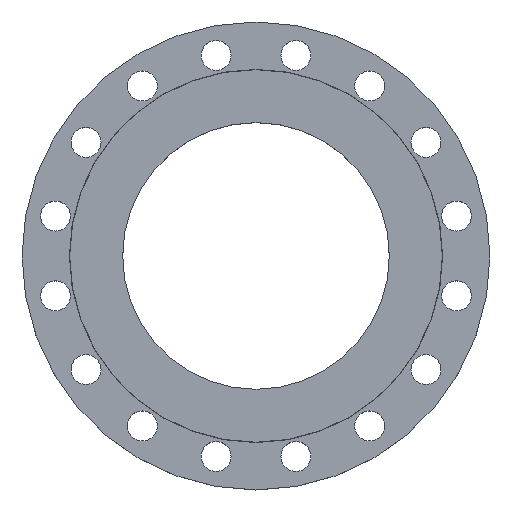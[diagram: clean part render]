
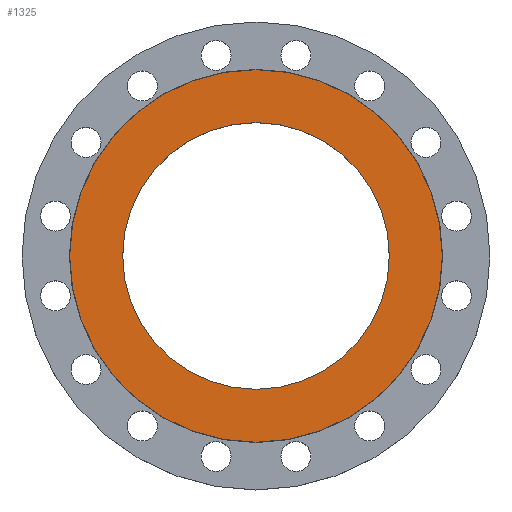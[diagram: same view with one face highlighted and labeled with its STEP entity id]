
A CAD part, top view. The second image highlights one B-rep face of the part: STEP entity #1325.
In plain terms, the highlighted planar face has unit normal (0, 0, 1).
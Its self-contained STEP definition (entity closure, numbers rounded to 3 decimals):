
#339 = AXIS2_PLACEMENT_3D ( 'NONE', #654, #653, #652 ) ;
#475 = ORIENTED_EDGE ( 'NONE', *, *, #1298, .F. ) ;
#481 = ORIENTED_EDGE ( 'NONE', *, *, #1092, .F. ) ;
#500 = EDGE_CURVE ( 'NONE', #705, #720, #589, .T. ) ;
#515 = ORIENTED_EDGE ( 'NONE', *, *, #1250, .F. ) ;
#567 = VERTEX_POINT ( 'NONE', #1503 ) ;
#575 = VERTEX_POINT ( 'NONE', #1491 ) ;
#589 = CIRCLE ( 'NONE', #1497, 146.752 ) ;
#602 = AXIS2_PLACEMENT_3D ( 'NONE', #1114, #1112, #1111 ) ;
#652 = DIRECTION ( 'NONE',  ( 1., 0., 0. ) ) ;
#653 = DIRECTION ( 'NONE',  ( 0., 0., 1. ) ) ;
#654 = CARTESIAN_POINT ( 'NONE',  ( 0., 0., 0. ) ) ;
#655 = PLANE ( 'NONE',  #339 ) ;
#657 = FACE_OUTER_BOUND ( 'NONE', #996, .T. ) ;
#658 = FACE_BOUND ( 'NONE', #956, .T. ) ;
#670 = CIRCLE ( 'NONE', #1580, 205. ) ;
#682 = DIRECTION ( 'NONE',  ( -1., 0., 0. ) ) ;
#684 = DIRECTION ( 'NONE',  ( 0., 0., -1. ) ) ;
#685 = CARTESIAN_POINT ( 'NONE',  ( 0., 0., 0. ) ) ;
#705 = VERTEX_POINT ( 'NONE', #1330 ) ;
#720 = VERTEX_POINT ( 'NONE', #1320 ) ;
#825 = DIRECTION ( 'NONE',  ( -1., 0., 0. ) ) ;
#826 = DIRECTION ( 'NONE',  ( 0., 0., -1. ) ) ;
#827 = CARTESIAN_POINT ( 'NONE',  ( 0., 0., 0. ) ) ;
#956 = EDGE_LOOP ( 'NONE', ( #481, #1591 ) ) ;
#992 = CIRCLE ( 'NONE', #1192, 205. ) ;
#996 = EDGE_LOOP ( 'NONE', ( #475, #515 ) ) ;
#1092 = EDGE_CURVE ( 'NONE', #720, #705, #1311, .T. ) ;
#1111 = DIRECTION ( 'NONE',  ( 1., 0., 0. ) ) ;
#1112 = DIRECTION ( 'NONE',  ( 0., 0., 1. ) ) ;
#1114 = CARTESIAN_POINT ( 'NONE',  ( 0., 0., 0. ) ) ;
#1192 = AXIS2_PLACEMENT_3D ( 'NONE', #685, #684, #682 ) ;
#1250 = EDGE_CURVE ( 'NONE', #567, #575, #670, .T. ) ;
#1298 = EDGE_CURVE ( 'NONE', #575, #567, #992, .T. ) ;
#1311 = CIRCLE ( 'NONE', #602, 146.752 ) ;
#1320 = CARTESIAN_POINT ( 'NONE',  ( 146.752, 0., 0. ) ) ;
#1325 = ADVANCED_FACE ( 'NONE', ( #658, #657 ), #655, .T. ) ;
#1330 = CARTESIAN_POINT ( 'NONE',  ( -146.752, 0., 0. ) ) ;
#1491 = CARTESIAN_POINT ( 'NONE',  ( -205., 0., 0. ) ) ;
#1497 = AXIS2_PLACEMENT_3D ( 'NONE', #1555, #1553, #1552 ) ;
#1503 = CARTESIAN_POINT ( 'NONE',  ( 205., 0., 0. ) ) ;
#1552 = DIRECTION ( 'NONE',  ( 1., 0., 0. ) ) ;
#1553 = DIRECTION ( 'NONE',  ( 0., 0., 1. ) ) ;
#1555 = CARTESIAN_POINT ( 'NONE',  ( 0., 0., 0. ) ) ;
#1580 = AXIS2_PLACEMENT_3D ( 'NONE', #827, #826, #825 ) ;
#1591 = ORIENTED_EDGE ( 'NONE', *, *, #500, .F. ) ;
